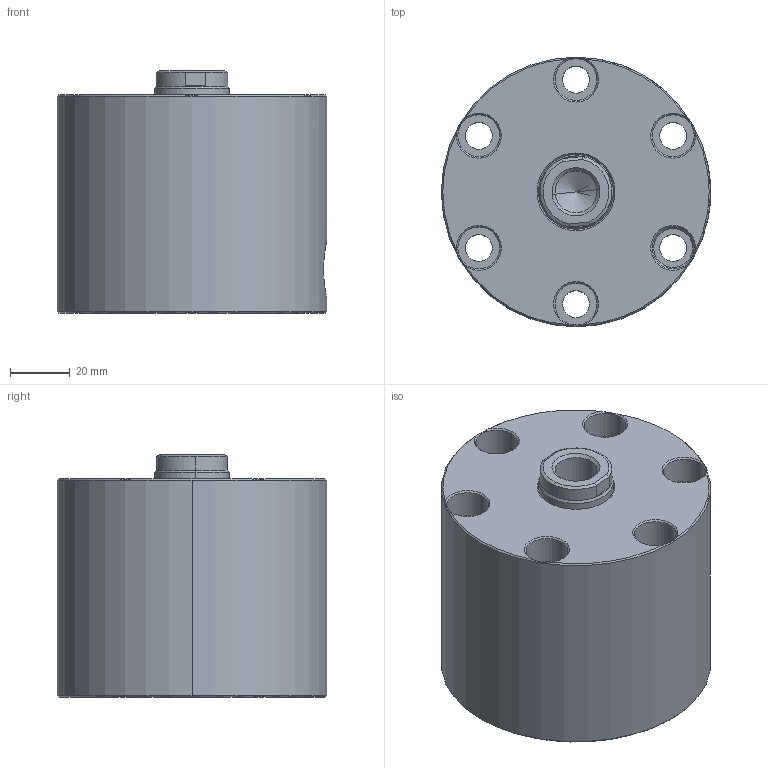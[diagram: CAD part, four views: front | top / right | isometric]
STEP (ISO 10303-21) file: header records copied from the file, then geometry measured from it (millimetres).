
FILE_DESCRIPTION (( 'STEP AP214' ), '1' );
FILE_NAME ('CO2C-9525-ASS.STEP', '2020-07-08T08:52:19', ( '' ), ( '' ), 'SwSTEP 2.0', 'SolidWorks 2019', '' );
FILE_SCHEMA (( 'AUTOMOTIVE_DESIGN' ));
Length unit declared in the file: millimetre
Products named in the file (3): CO2C-9525-PISTON; CO2C-9525-BODY; CO2C-9525-ASS
Assembly tree (2 placements, depth 2):
  CO2C-9525-ASS
    CO2C-9525-BODY
    CO2C-9525-PISTON
Bounding box: 90 x 90 x 81 mm (x, y, z)
Volume: 414719.3 mm3; surface area: 58152.4 mm2
Topology: 2 solids, 2 shells, 130 faces, 315 edges, 188 vertices
Faces by surface type: cylinder 54, cone 51, plane 25
Entity records: 4218 total; most frequent: CARTESIAN_POINT 914, DIRECTION 734, ORIENTED_EDGE 618, AXIS2_PLACEMENT_3D 310, EDGE_CURVE 309, VERTEX_POINT 188, CIRCLE 175, EDGE_LOOP 147
